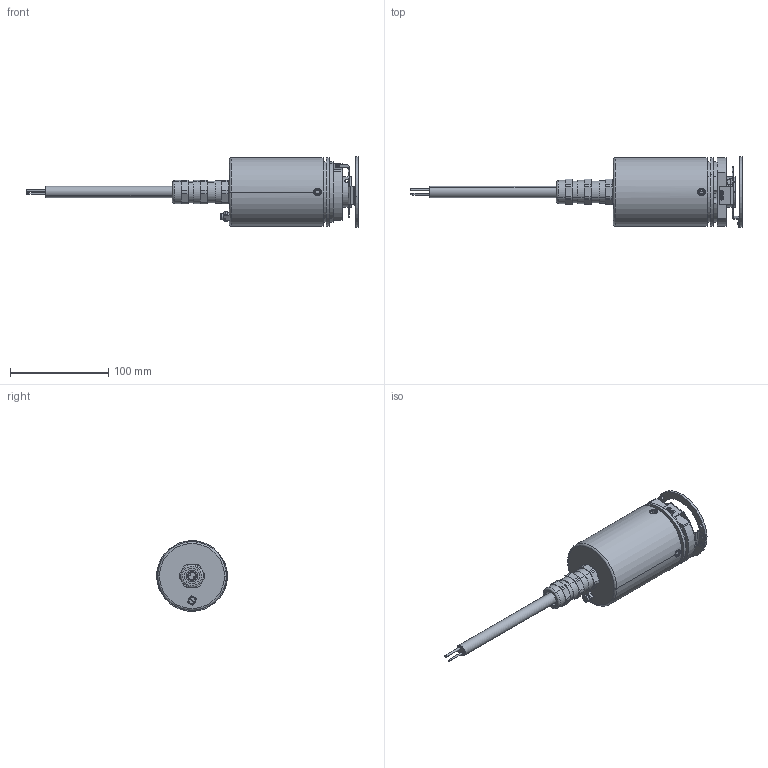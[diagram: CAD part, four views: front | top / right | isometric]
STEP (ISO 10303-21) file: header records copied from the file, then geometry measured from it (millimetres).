
FILE_DESCRIPTION (( 'STEP AP214' ), '1' );
FILE_NAME ('8.7020.51x1.xxxx.STEP', '2015-04-27T05:33:57', ( 'admin' ), ( 'Microsoft' ), 'SwSTEP 2.0', 'SolidWorks 2013', '' );
FILE_SCHEMA (( 'AUTOMOTIVE_DESIGN' ));
Length unit declared in the file: millimetre
Products named in the file (1): 8.7020.51x1.xxxx
Bounding box: 338.1 x 71.93 x 71.93 mm (x, y, z)
Surface area: 64596 mm2 (no closed solid volume)
Topology: 0 solids, 36 shells, 381 faces, 1133 edges, 788 vertices
Faces by surface type: cylinder 172, plane 146, cone 40, torus 19, sphere 4
Entity records: 17778 total; most frequent: CARTESIAN_POINT 3159, DIRECTION 2304, ORIENTED_EDGE 1897, EDGE_CURVE 1133, AXIS2_PLACEMENT_3D 877, VERTEX_POINT 788, VECTOR 550, LINE 550
